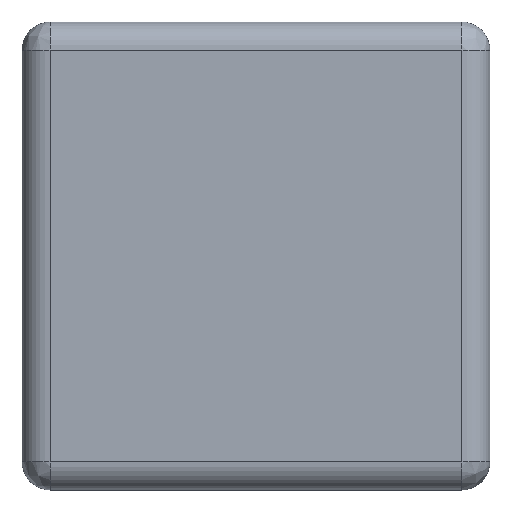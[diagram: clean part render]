
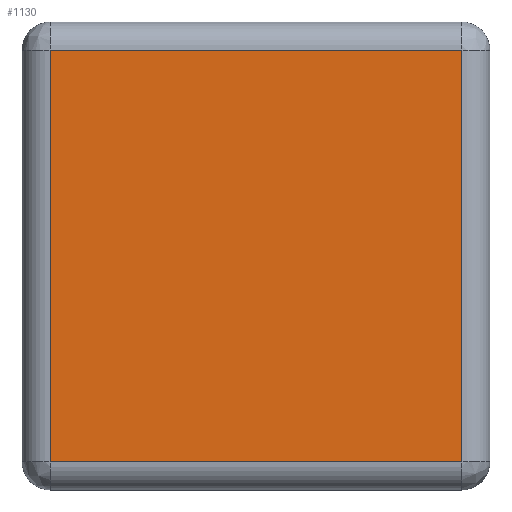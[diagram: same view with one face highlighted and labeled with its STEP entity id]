
A CAD part, top view. The second image highlights one B-rep face of the part: STEP entity #1130.
In plain terms, the highlighted planar face has unit normal (0, 0, 1).
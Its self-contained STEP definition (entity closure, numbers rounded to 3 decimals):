
#8 = VERTEX_POINT ( 'NONE', #615 ) ;
#25 = DIRECTION ( 'NONE',  ( 1., 0., 0. ) ) ;
#80 = LINE ( 'NONE', #1117, #558 ) ;
#109 = EDGE_LOOP ( 'NONE', ( #1068, #277, #864, #1136 ) ) ;
#121 = PLANE ( 'NONE',  #385 ) ;
#204 = DIRECTION ( 'NONE',  ( -1., 0., 0. ) ) ;
#209 = DIRECTION ( 'NONE',  ( 0., 1., 0. ) ) ;
#215 = LINE ( 'NONE', #310, #1228 ) ;
#269 = VERTEX_POINT ( 'NONE', #1184 ) ;
#277 = ORIENTED_EDGE ( 'NONE', *, *, #646, .F. ) ;
#307 = VERTEX_POINT ( 'NONE', #1069 ) ;
#310 = CARTESIAN_POINT ( 'NONE',  ( -22., 25., 0. ) ) ;
#321 = EDGE_CURVE ( 'NONE', #1148, #307, #80, .T. ) ;
#373 = CARTESIAN_POINT ( 'NONE',  ( -25., -22., 0. ) ) ;
#385 = AXIS2_PLACEMENT_3D ( 'NONE', #391, #492, #775 ) ;
#391 = CARTESIAN_POINT ( 'NONE',  ( -25., 25., 0. ) ) ;
#458 = VECTOR ( 'NONE', #204, 1000. ) ;
#492 = DIRECTION ( 'NONE',  ( 0., 0., -1. ) ) ;
#499 = CARTESIAN_POINT ( 'NONE',  ( 22., 22., 0. ) ) ;
#544 = EDGE_CURVE ( 'NONE', #307, #8, #1143, .T. ) ;
#558 = VECTOR ( 'NONE', #807, 1000. ) ;
#615 = CARTESIAN_POINT ( 'NONE',  ( -22., -22., 0. ) ) ;
#646 = EDGE_CURVE ( 'NONE', #269, #1148, #698, .T. ) ;
#698 = LINE ( 'NONE', #776, #892 ) ;
#760 = FACE_OUTER_BOUND ( 'NONE', #109, .T. ) ;
#775 = DIRECTION ( 'NONE',  ( -1., 0., 0. ) ) ;
#776 = CARTESIAN_POINT ( 'NONE',  ( -25., 22., 0. ) ) ;
#807 = DIRECTION ( 'NONE',  ( 0., -1., 0. ) ) ;
#864 = ORIENTED_EDGE ( 'NONE', *, *, #1142, .F. ) ;
#892 = VECTOR ( 'NONE', #25, 1000. ) ;
#1068 = ORIENTED_EDGE ( 'NONE', *, *, #321, .F. ) ;
#1069 = CARTESIAN_POINT ( 'NONE',  ( 22., -22., 0. ) ) ;
#1117 = CARTESIAN_POINT ( 'NONE',  ( 22., 25., 0. ) ) ;
#1130 = ADVANCED_FACE ( 'NONE', ( #760 ), #121, .F. ) ;
#1136 = ORIENTED_EDGE ( 'NONE', *, *, #544, .F. ) ;
#1142 = EDGE_CURVE ( 'NONE', #8, #269, #215, .T. ) ;
#1143 = LINE ( 'NONE', #373, #458 ) ;
#1148 = VERTEX_POINT ( 'NONE', #499 ) ;
#1184 = CARTESIAN_POINT ( 'NONE',  ( -22., 22., 0. ) ) ;
#1228 = VECTOR ( 'NONE', #209, 1000. ) ;
